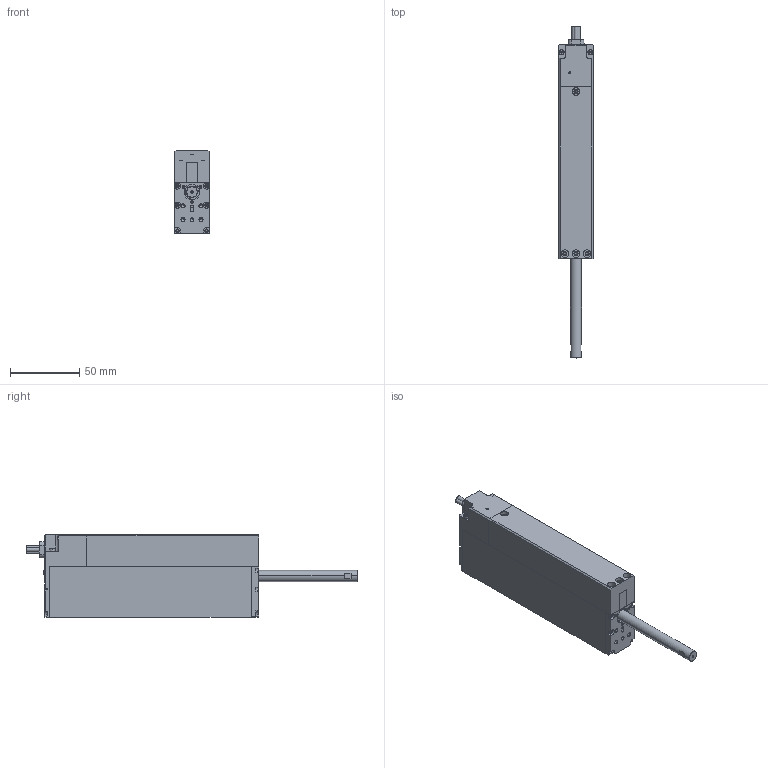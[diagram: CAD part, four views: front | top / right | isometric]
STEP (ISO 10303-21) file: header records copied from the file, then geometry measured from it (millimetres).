
FILE_DESCRIPTION((''),'2;1');
FILE_NAME('LCA25-050.stp','2013-03-08T08:13:29',(''),(''),'Mechanical Desktop 2008','Mechanical Desktop 2008',', , ');
FILE_SCHEMA(('CONFIG_CONTROL_DESIGN'));
Length unit declared in the file: millimetre
Products named in the file (25): DRAWING2; LCA25-050-1_A; 702572-05_A; 14708-01_A2; 14708-02_A2; 66549-01_A; 66549-02_A; CABLE-G_B; BROACHED SOCKET HEAD CAP SCREW - METRIC M2X0.4 X 3; LCA25-50-1-PIS_1; 16577-01_B; LCA25-FIX-PCB; 11607-01_B1; 11604-01_D; AS 1427 (8) - METRIC M2 X 4; ENC-FLX; LCA25-COVER; 23622-01_B3; BUMPER; BS 4183 SLOTTED CHEESE HEAD MACHINE SCREW - METRIC M2.2 X 3; LCA25-34516-01_B; 34516-01_B; CNN-14P-1MM; SM04B-SSR-H-TB; SM98B-SSR-H-TB
Assembly tree (40 placements, depth 5):
  DRAWING2
    LCA25-050-1_A
      702572-05_A
        14708-01_A2
        14708-02_A2
        66549-01_A  x8
        66549-02_A  x3
      CABLE-G_B
      BROACHED SOCKET HEAD CAP SCREW - METRIC M2X0.4 X 3  x4
      LCA25-50-1-PIS_1
        16577-01_B
        LCA25-FIX-PCB
      11607-01_B1
      11604-01_D
      AS 1427 (8) - METRIC M2 X 4  x3
      ENC-FLX
      LCA25-COVER
        23622-01_B3
        BUMPER
        BS 4183 SLOTTED CHEESE HEAD MACHINE SCREW - METRIC M2.2 X 3  x2
        CABLE-G_B
        LCA25-34516-01_B
          34516-01_B
          CNN-14P-1MM
          SM04B-SSR-H-TB
          SM98B-SSR-H-TB
Bounding box: 25 x 240.5 x 60 mm (x, y, z)
Volume: 104030 mm3; surface area: 86242 mm2
Topology: 34 solids, 34 shells, 1104 faces, 2837 edges, 1845 vertices
Faces by surface type: plane 671, bspline 188, cylinder 153, cone 58, torus 34
Full cylindrical faces by diameter (mm): 3 x4
Entity records: 29265 total; most frequent: CARTESIAN_POINT 7826, ORIENTED_EDGE 4288, DIRECTION 4108, EDGE_CURVE 2144, VECTOR 1576, LINE 1576, VERTEX_POINT 1471, AXIS2_PLACEMENT_3D 1266
